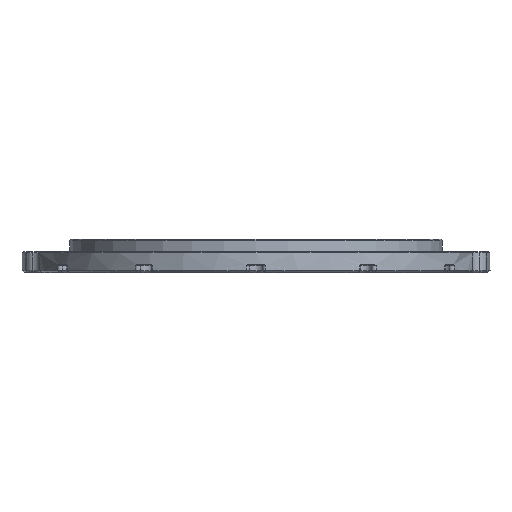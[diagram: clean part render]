
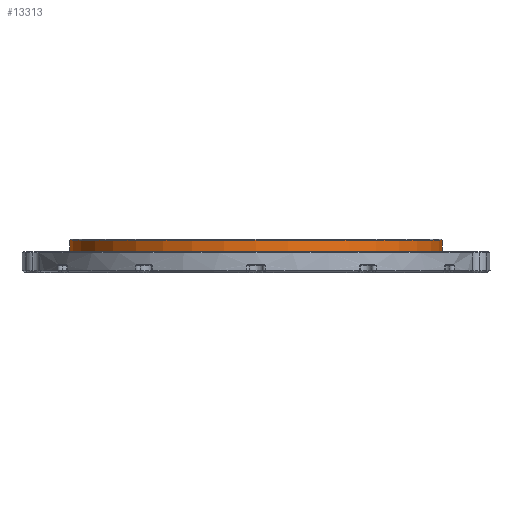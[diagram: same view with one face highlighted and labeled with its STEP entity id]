
A CAD part, front view. The second image highlights one B-rep face of the part: STEP entity #13313.
In plain terms, the highlighted cylindrical face has radius 89.75 mm (diameter 179.5 mm), a partial arc.
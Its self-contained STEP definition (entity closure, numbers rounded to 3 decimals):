
#386 = CARTESIAN_POINT ( 'NONE',  ( 0., 0., 15.5 ) ) ;
#638 = VERTEX_POINT ( 'NONE', #2673 ) ;
#955 = EDGE_LOOP ( 'NONE', ( #3535, #4468, #7128, #1277 ) ) ;
#1277 = ORIENTED_EDGE ( 'NONE', *, *, #7893, .T. ) ;
#1351 = EDGE_CURVE ( 'NONE', #638, #14592, #14482, .T. ) ;
#1411 = CIRCLE ( 'NONE', #1902, 89.75 ) ;
#1755 = DIRECTION ( 'NONE',  ( 0., 0., -1. ) ) ;
#1902 = AXIS2_PLACEMENT_3D ( 'NONE', #386, #1755, #13004 ) ;
#2673 = CARTESIAN_POINT ( 'NONE',  ( 89.75, 0., 15.5 ) ) ;
#2832 = DIRECTION ( 'NONE',  ( 0., 0., -1. ) ) ;
#3012 = VECTOR ( 'NONE', #5673, 1000. ) ;
#3535 = ORIENTED_EDGE ( 'NONE', *, *, #1351, .F. ) ;
#4054 = CARTESIAN_POINT ( 'NONE',  ( 0., 0., 16. ) ) ;
#4293 = CARTESIAN_POINT ( 'NONE',  ( 0., 0., 10.2 ) ) ;
#4468 = ORIENTED_EDGE ( 'NONE', *, *, #6955, .T. ) ;
#5161 = CARTESIAN_POINT ( 'NONE',  ( 89.75, 0., 16. ) ) ;
#5524 = CARTESIAN_POINT ( 'NONE',  ( -89.75, 0., 16. ) ) ;
#5673 = DIRECTION ( 'NONE',  ( 0., 0., -1. ) ) ;
#6422 = FACE_OUTER_BOUND ( 'NONE', #955, .T. ) ;
#6795 = CIRCLE ( 'NONE', #8736, 89.75 ) ;
#6955 = EDGE_CURVE ( 'NONE', #638, #11042, #1411, .T. ) ;
#7128 = ORIENTED_EDGE ( 'NONE', *, *, #12123, .T. ) ;
#7572 = VECTOR ( 'NONE', #8801, 1000. ) ;
#7639 = CYLINDRICAL_SURFACE ( 'NONE', #10114, 89.75 ) ;
#7893 = EDGE_CURVE ( 'NONE', #14816, #14592, #6795, .T. ) ;
#8736 = AXIS2_PLACEMENT_3D ( 'NONE', #4293, #14851, #8935 ) ;
#8801 = DIRECTION ( 'NONE',  ( 0., 0., -1. ) ) ;
#8935 = DIRECTION ( 'NONE',  ( 1., 0., 0. ) ) ;
#9682 = CARTESIAN_POINT ( 'NONE',  ( -89.75, 0., 15.5 ) ) ;
#10114 = AXIS2_PLACEMENT_3D ( 'NONE', #4054, #2832, #13240 ) ;
#11042 = VERTEX_POINT ( 'NONE', #9682 ) ;
#11524 = CARTESIAN_POINT ( 'NONE',  ( 89.75, 0., 10.2 ) ) ;
#12123 = EDGE_CURVE ( 'NONE', #11042, #14816, #12418, .T. ) ;
#12418 = LINE ( 'NONE', #5524, #3012 ) ;
#13004 = DIRECTION ( 'NONE',  ( -1., 0., 0. ) ) ;
#13240 = DIRECTION ( 'NONE',  ( -1., 0., 0. ) ) ;
#13313 = ADVANCED_FACE ( 'NONE', ( #6422 ), #7639, .T. ) ;
#13863 = CARTESIAN_POINT ( 'NONE',  ( -89.75, 0., 10.2 ) ) ;
#14482 = LINE ( 'NONE', #5161, #7572 ) ;
#14592 = VERTEX_POINT ( 'NONE', #11524 ) ;
#14816 = VERTEX_POINT ( 'NONE', #13863 ) ;
#14851 = DIRECTION ( 'NONE',  ( 0., 0., 1. ) ) ;
